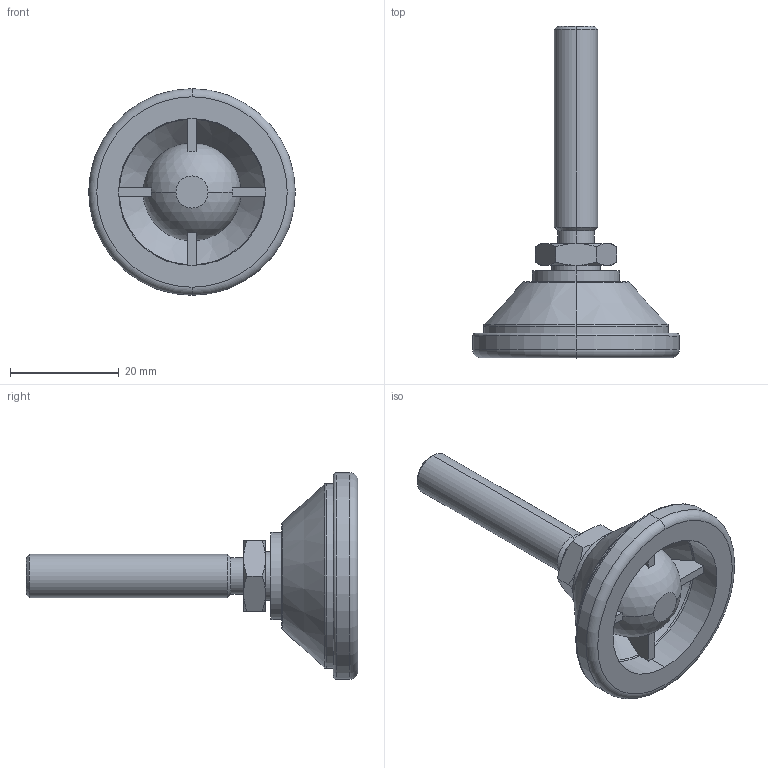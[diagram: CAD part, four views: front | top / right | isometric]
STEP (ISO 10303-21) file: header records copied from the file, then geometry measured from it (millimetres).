
FILE_DESCRIPTION (( 'STEP AP203' ), '1' );
FILE_NAME ('3472.W082.step', '2009-10-21T16:57:55', ( 'Wixroyd' ), ( 'Wixroyd' ), 'SwSTEP 2.0', 'SolidWorks 2009', '' );
FILE_SCHEMA (( 'CONFIG_CONTROL_DESIGN' ));
Length unit declared in the file: millimetre
Products named in the file (3): Part1_3472W082; 3472.W082; Part2_3472W082
Assembly tree (2 placements, depth 2):
  3472.W082
    Part1_3472W082
    Part2_3472W082
Bounding box: 38 x 61 x 38 mm (x, y, z)
Volume: 10684.3 mm3; surface area: 6923 mm2
Topology: 2 solids, 2 shells, 83 faces, 202 edges, 126 vertices
Faces by surface type: plane 27, cone 22, cylinder 16, torus 12, sphere 6
Entity records: 2817 total; most frequent: CARTESIAN_POINT 602, DIRECTION 438, ORIENTED_EDGE 386, AXIS2_PLACEMENT_3D 197, EDGE_CURVE 193, VERTEX_POINT 121, CIRCLE 109, EDGE_LOOP 90
